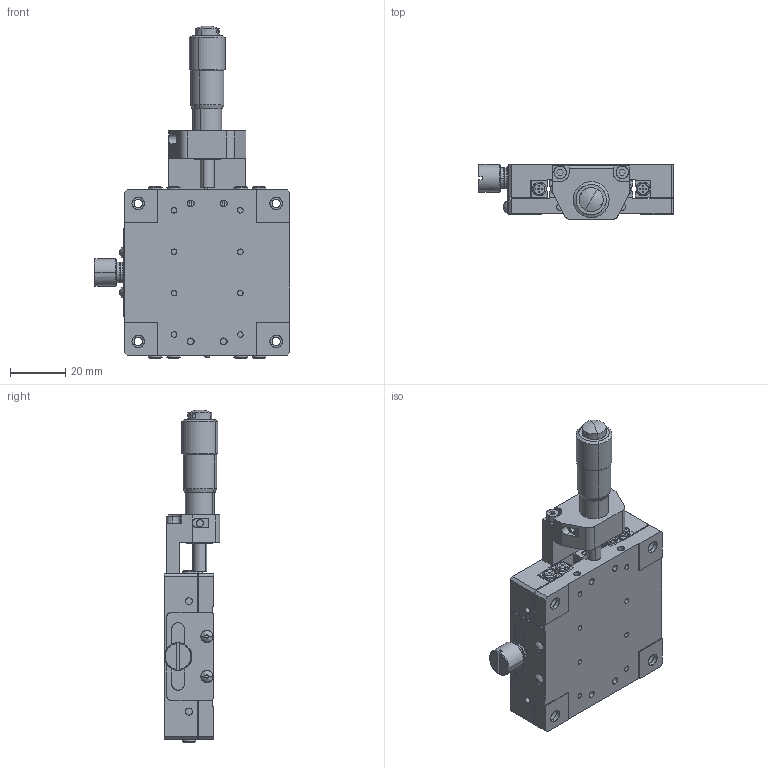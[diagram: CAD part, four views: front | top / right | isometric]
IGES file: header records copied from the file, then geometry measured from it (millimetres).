
Start section: SolidWorks IGES file using analytic representation for surfaces
Global section: file name: E:\0莉こ芞祧(2019)\07PHL\60\IGS\PHL-661CRZ.IGS; native system: SolidWorks 2015; preprocessor: SolidWorks 2015; author: Administrator; date: 190124.102911; units: millimetre
Bounding box: 71 x 20.2 x 120.3 mm (x, y, z)
Surface area: 42391.3 mm2 (no closed solid volume)
Topology: 0 solids, 0 shells, 1161 faces, 19407 edges, 19396 vertices
Faces by surface type: bspline 610, revolution 551
